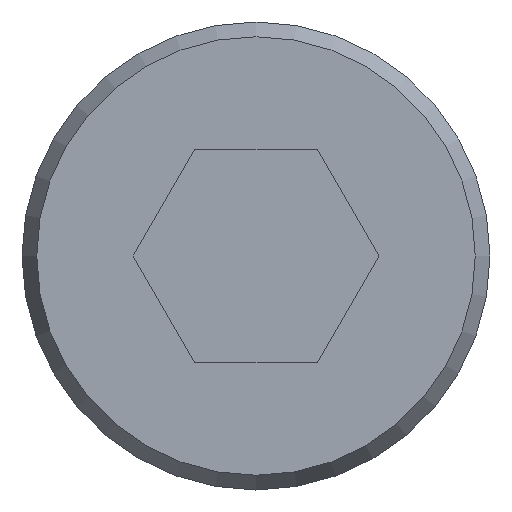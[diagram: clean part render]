
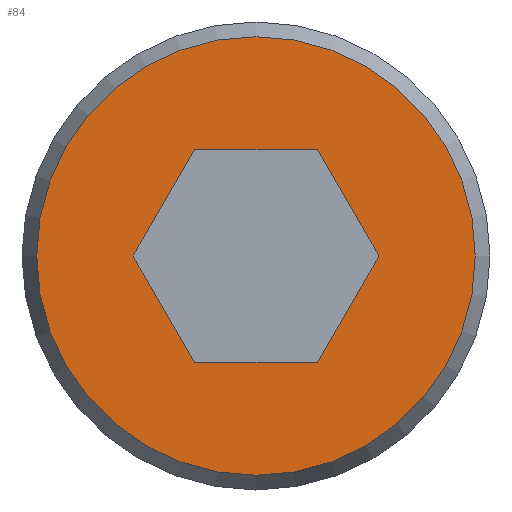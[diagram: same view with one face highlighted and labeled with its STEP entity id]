
A CAD part, left-side view. The second image highlights one B-rep face of the part: STEP entity #84.
In plain terms, the highlighted free-form (B-spline) face has degree [1, 1] with [3, 4] control points.
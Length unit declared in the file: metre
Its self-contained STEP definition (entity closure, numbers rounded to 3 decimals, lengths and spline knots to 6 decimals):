
#84 = ADVANCED_FACE( '', ( #114, #115 ), #116, .T. );
#114 = FACE_BOUND( '', #269, .T. );
#115 = FACE_OUTER_BOUND( '', #270, .T. );
#116 = B_SPLINE_SURFACE_WITH_KNOTS( '', 1, 1, ( ( #271, #272, #273, #274 ), ( #275, #276, #277, #278 ), ( #279, #280, #281, #282 ) ), .UNSPECIFIED., .F., .F., .F., ( 2, 1, 2 ), ( 2, 1, 1, 2 ), ( -0.409091, 0., 1. ), ( -0.287296, 0., 1., 1.287296 ), .UNSPECIFIED. );
#269 = EDGE_LOOP( '', ( #351, #352, #353, #354, #355, #356 ) );
#270 = EDGE_LOOP( '', ( #357 ) );
#271 = CARTESIAN_POINT( '', ( 4.878993, 3.284644, -0.139485 ) );
#272 = CARTESIAN_POINT( '', ( 4.878993, 3.284644, -0.141114 ) );
#273 = CARTESIAN_POINT( '', ( 4.878993, 3.284644, -0.146783 ) );
#274 = CARTESIAN_POINT( '', ( 4.878993, 3.284644, -0.148412 ) );
#275 = CARTESIAN_POINT( '', ( 4.878993, 3.286963, -0.139485 ) );
#276 = CARTESIAN_POINT( '', ( 4.878993, 3.286963, -0.141114 ) );
#277 = CARTESIAN_POINT( '', ( 4.878993, 3.286963, -0.146783 ) );
#278 = CARTESIAN_POINT( '', ( 4.878993, 3.286963, -0.148412 ) );
#279 = CARTESIAN_POINT( '', ( 4.878993, 3.292632, -0.139485 ) );
#280 = CARTESIAN_POINT( '', ( 4.878993, 3.292632, -0.141114 ) );
#281 = CARTESIAN_POINT( '', ( 4.878993, 3.292632, -0.146783 ) );
#282 = CARTESIAN_POINT( '', ( 4.878993, 3.292632, -0.148412 ) );
#351 = ORIENTED_EDGE( '', *, *, #394, .F. );
#352 = ORIENTED_EDGE( '', *, *, #395, .F. );
#353 = ORIENTED_EDGE( '', *, *, #396, .F. );
#354 = ORIENTED_EDGE( '', *, *, #386, .F. );
#355 = ORIENTED_EDGE( '', *, *, #384, .F. );
#356 = ORIENTED_EDGE( '', *, *, #397, .F. );
#357 = ORIENTED_EDGE( '', *, *, #393, .T. );
#384 = EDGE_CURVE( '', #415, #417, #418, .T. );
#386 = EDGE_CURVE( '', #417, #420, #421, .T. );
#393 = EDGE_CURVE( '', #433, #433, #434, .F. );
#394 = EDGE_CURVE( '', #435, #436, #437, .T. );
#395 = EDGE_CURVE( '', #438, #435, #439, .T. );
#396 = EDGE_CURVE( '', #420, #438, #440, .T. );
#397 = EDGE_CURVE( '', #436, #415, #441, .T. );
#415 = VERTEX_POINT( '', #473 );
#417 = VERTEX_POINT( '', #476 );
#418 = LINE( '', #477, #478 );
#420 = VERTEX_POINT( '', #481 );
#421 = LINE( '', #482, #483 );
#433 = VERTEX_POINT( '', #496 );
#434 = CIRCLE( '', #497, 0.002577 );
#435 = VERTEX_POINT( '', #498 );
#436 = VERTEX_POINT( '', #499 );
#437 = LINE( '', #500, #501 );
#438 = VERTEX_POINT( '', #502 );
#439 = LINE( '', #503, #504 );
#440 = LINE( '', #505, #506 );
#441 = LINE( '', #507, #508 );
#473 = CARTESIAN_POINT( '', ( 4.878993, 3.29052, -0.145199 ) );
#476 = CARTESIAN_POINT( '', ( 4.878993, 3.289076, -0.145199 ) );
#477 = CARTESIAN_POINT( '', ( 4.878993, 3.289798, -0.145199 ) );
#478 = VECTOR( '', #521, 1. );
#481 = CARTESIAN_POINT( '', ( 4.878993, 3.288354, -0.143949 ) );
#482 = CARTESIAN_POINT( '', ( 4.878993, 3.288715, -0.144574 ) );
#483 = VECTOR( '', #523, 1. );
#496 = CARTESIAN_POINT( '', ( 4.878993, 3.292375, -0.143949 ) );
#497 = AXIS2_PLACEMENT_3D( '', #540, #541, #542 );
#498 = CARTESIAN_POINT( '', ( 4.878993, 3.29052, -0.142699 ) );
#499 = CARTESIAN_POINT( '', ( 4.878993, 3.291241, -0.143949 ) );
#500 = CARTESIAN_POINT( '', ( 4.878993, 3.29088, -0.143324 ) );
#501 = VECTOR( '', #543, 1. );
#502 = CARTESIAN_POINT( '', ( 4.878993, 3.289076, -0.142699 ) );
#503 = CARTESIAN_POINT( '', ( 4.878993, 3.289798, -0.142699 ) );
#504 = VECTOR( '', #544, 1. );
#505 = CARTESIAN_POINT( '', ( 4.878993, 3.288715, -0.143324 ) );
#506 = VECTOR( '', #545, 1. );
#507 = CARTESIAN_POINT( '', ( 4.878993, 3.29088, -0.144574 ) );
#508 = VECTOR( '', #546, 1. );
#521 = DIRECTION( '', ( 0., -1., 0. ) );
#523 = DIRECTION( '', ( 0., -0.5, 0.866 ) );
#540 = CARTESIAN_POINT( '', ( 4.878993, 3.289798, -0.143949 ) );
#541 = DIRECTION( '', ( 1., 0., 0. ) );
#542 = DIRECTION( '', ( 0., 0., -1. ) );
#543 = DIRECTION( '', ( 0., 0.5, -0.866 ) );
#544 = DIRECTION( '', ( 0., 1., 0. ) );
#545 = DIRECTION( '', ( 0., 0.5, 0.866 ) );
#546 = DIRECTION( '', ( 0., -0.5, -0.866 ) );
